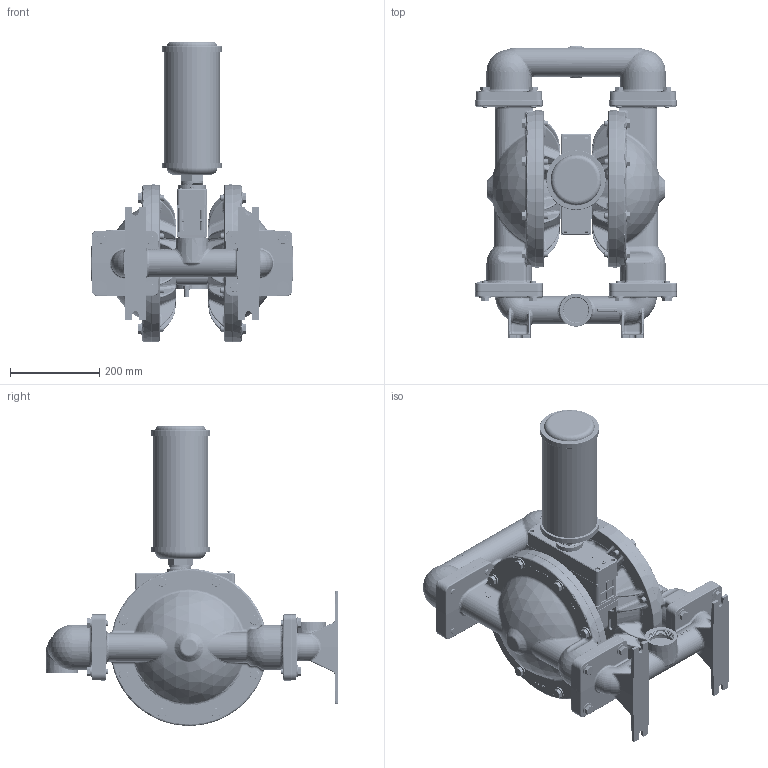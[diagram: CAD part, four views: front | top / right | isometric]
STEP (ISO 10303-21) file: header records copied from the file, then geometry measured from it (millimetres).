
FILE_DESCRIPTION (( 'STEP AP203' ), '1' );
FILE_NAME ('PS820_ADV_SS 1.STEP', '2022-07-04T12:13:51', ( '' ), ( '' ), 'SwSTEP 2.0', 'SolidWorks 2019', '' );
FILE_SCHEMA (( 'CONFIG_CONTROL_DESIGN' ));
Length unit declared in the file: inch
Products named in the file (1): PS820_ADV_SS 1
Bounding box: 452.41 x 657.19 x 674.71 mm (x, y, z)
Volume: 29448676.2 mm3; surface area: 1469909.1 mm2
Topology: 1 solids, 1 shells, 7063 faces, 18300 edges, 11534 vertices
Faces by surface type: plane 4169, bspline 999, cylinder 867, cone 515, torus 317, sphere 196
Entity records: 496315 total; most frequent: CARTESIAN_POINT 331904, ORIENTED_EDGE 36544, DIRECTION 30698, EDGE_CURVE 18272, VERTEX_POINT 11522, LINE 11392, VECTOR 11392, AXIS2_PLACEMENT_3D 9653
